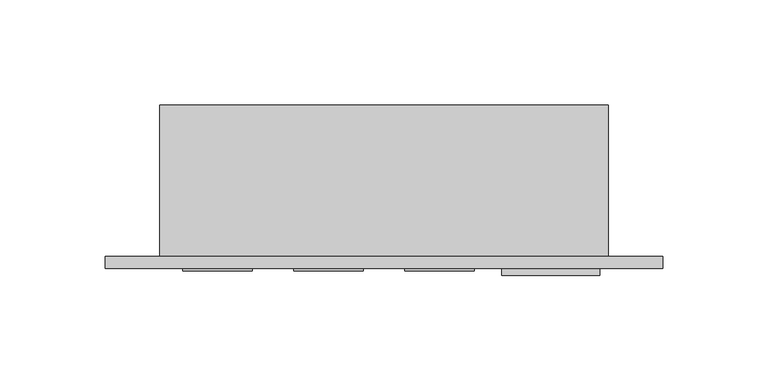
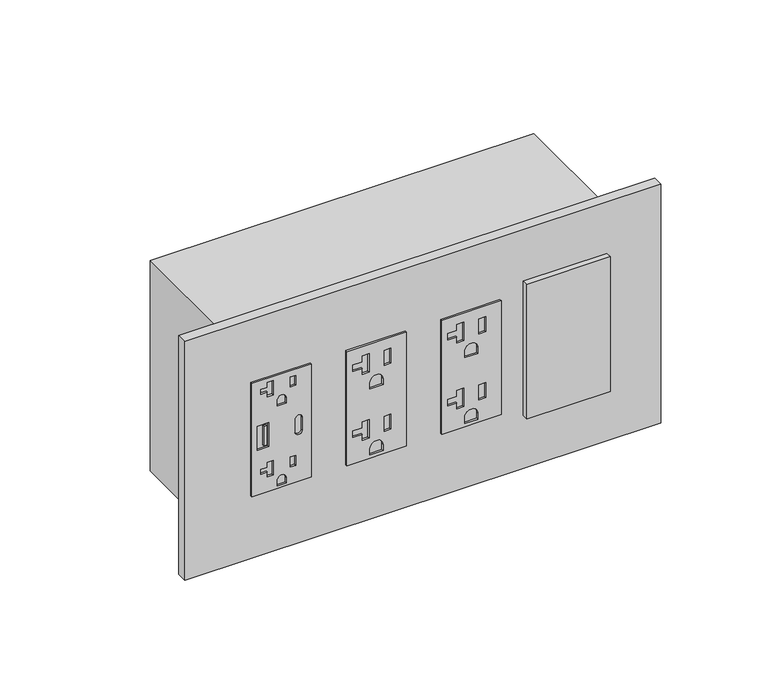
"""IFC4 building model written with IfcOpenShell, lengths in millimetres: proxy geometry, Electrical-Teknion-EPDMQ_Vertical_Power_Data_Quad-R2019 : PD Vertical Module - Quad 20 Amp USB (A+C) & 20 Amp Standard."""

from ifc_helpers import new_model, si_unit, point, frame, frame_2d, origin, place, context, project, spatial, polyline, circle_curve, trimmed, segment, composite_curve, outline, extrude, source, transform, mapped, element, save


def electrical_fixtures_5008ccd6(model_context):
    return source(origin(), model_context, "Body", "SweptSolid", [
        extrude(outline(polyline([(414.274, 11.0998), (347.726, 11.0998), (347.726, 44.0944), (414.274, 44.0944), (414.274, 11.0998)]), holes=[polyline([(388.0485, 14.0236066), (388.0485, 20.5246617), (373.9515, 20.5246617), (373.9515, 14.0236066), (388.0485, 14.0236066)]), composite_curve([segment(trimmed(circle_curve(frame_2d((384.7846, 37.1348)), 1.905), [point((384.7846, 35.2298))], [point((384.7846, 39.0398))], True, "CARTESIAN"), True, "CONTINUOUS"), segment(polyline([(384.7846, 39.0398), (377.2154, 39.0398)]), True, "CONTINUOUS"), segment(trimmed(circle_curve(frame_2d((377.2154, 37.1348)), 1.905), [point((377.2154, 39.0398))], [point((377.2154, 35.2298))], True, "CARTESIAN"), True, "CONTINUOUS"), segment(polyline([(377.2154, 35.2298), (384.7846, 35.2298)]), True, "CONTINUOUS")], self_intersect=False), composite_curve([segment(polyline([(349.25, 30.0609), (349.25, 25.1333), (352.3488, 25.1333)]), True, "CONTINUOUS"), segment(trimmed(circle_curve(frame_2d((352.3488, 27.5971)), 2.4638), [point((352.3488, 25.1333))], [point((352.3488, 30.0609))], True, "CARTESIAN"), True, "CONTINUOUS"), segment(polyline([(352.3488, 30.0609), (349.25, 30.0609)]), True, "CONTINUOUS")], self_intersect=False), polyline([(364.8202, 22.9616), (356.5211661, 22.9616), (356.5211661, 19.6342), (359.2043639, 19.6342), (359.2043639, 16.1036), (361.9419812, 16.1036), (361.9419812, 19.6342), (364.8202, 19.6342), (364.8202, 22.9616)]), composite_curve([segment(polyline([(396.24, 25.1333), (399.3388, 25.1333)]), True, "CONTINUOUS"), segment(trimmed(circle_curve(frame_2d((399.3388, 27.5971)), 2.4638), [point((399.3388, 25.1333))], [point((399.3388, 30.0609))], True, "CARTESIAN"), True, "CONTINUOUS"), segment(polyline([(399.3388, 30.0609), (396.24, 30.0609), (396.24, 25.1333)]), True, "CONTINUOUS")], self_intersect=False), polyline([(404.7574649, 32.4358), (410.5806175, 32.4358), (410.5806175, 35.41014), (404.7574649, 35.41014), (404.7574649, 32.4358)]), polyline([(357.7674649, 32.4358), (363.5906175, 32.4358), (363.5906175, 35.41014), (357.7674649, 35.41014), (357.7674649, 32.4358)]), polyline([(411.8102, 22.9616), (403.5111661, 22.9616), (403.5111661, 19.6342), (406.1943639, 19.6342), (406.1943639, 16.1036), (408.9319812, 16.1036), (408.9319812, 19.6342), (411.8102, 19.6342), (411.8102, 22.9616)])]), frame((0.0, -6.9294746, 0.0), z_axis=(0.0, 1.0, 0.0), x_axis=(0.0, 0.0, 1.0)), (0.0, 0.0, 1.0), 1.0366746),
        extrude(outline(polyline([(19.314835, -6.9294746), (17.7939058, -6.9294746), (17.7939058, -5.8928), (19.314835, -5.8928), (19.314835, -6.9294746)])), frame((0.0, 0.0, 375.2741546), z_axis=(0.0, 0.0, 1.0), x_axis=(1.0, 0.0, 0.0)), (0.0, 0.0, 1.0), 11.4436352),
        extrude(outline(polyline([(414.4772, 149.4282), (414.4772, 116.4336), (347.5228, 116.4336), (347.5228, 149.4282), (414.4772, 149.4282)]), holes=[polyline([(409.0924, 128.778), (398.272, 128.778), (398.272, 124.9426), (401.7518, 124.9426), (401.7518, 119.8372), (405.6126, 119.8372), (405.6126, 124.9426), (409.0924, 124.9426), (409.0924, 128.778)]), polyline([(408.1145, 140.9446), (399.2499, 140.9446), (399.2499, 137.1092), (408.1145, 137.1092), (408.1145, 140.9446)]), composite_curve([segment(polyline([(388.0866, 136.5631), (388.0866, 129.2987), (391.7188, 129.2987)]), True, "CONTINUOUS"), segment(trimmed(circle_curve(frame_2d((391.7188, 132.9309)), 3.6322), [point((391.7188, 129.2987))], [point((391.7188, 136.5631))], True, "CARTESIAN"), True, "CONTINUOUS"), segment(polyline([(391.7188, 136.5631), (388.0866, 136.5631)]), True, "CONTINUOUS")], self_intersect=False), polyline([(370.3574, 128.778), (359.537, 128.778), (359.537, 124.9426), (363.0168, 124.9426), (363.0168, 119.8372), (366.8776, 119.8372), (366.8776, 124.9426), (370.3574, 124.9426), (370.3574, 128.778)]), polyline([(369.3795, 140.9446), (360.5149, 140.9446), (360.5149, 137.1092), (369.3795, 137.1092), (369.3795, 140.9446)]), composite_curve([segment(polyline([(349.3516, 136.5631), (349.3516, 129.2987), (352.9838, 129.2987)]), True, "CONTINUOUS"), segment(trimmed(circle_curve(frame_2d((352.9838, 132.9309)), 3.6322), [point((352.9838, 129.2987))], [point((352.9838, 136.5631))], True, "CARTESIAN"), True, "CONTINUOUS"), segment(polyline([(352.9838, 136.5631), (349.3516, 136.5631)]), True, "CONTINUOUS")], self_intersect=False)]), frame((0.0, -6.9294746, 0.0), z_axis=(0.0, 1.0, 0.0), x_axis=(0.0, 0.0, 1.0)), (0.0, 0.0, 1.0), 1.0366746),
        extrude(outline(polyline([(414.4772, 96.7613), (414.4772, 63.7667), (347.5228, 63.7667), (347.5228, 96.7613), (414.4772, 96.7613)]), holes=[polyline([(409.0924, 76.1111), (398.272, 76.1111), (398.272, 72.2757), (401.7518, 72.2757), (401.7518, 67.1703), (405.6126, 67.1703), (405.6126, 72.2757), (409.0924, 72.2757), (409.0924, 76.1111)]), polyline([(408.1145, 88.2777), (399.2499, 88.2777), (399.2499, 84.4423), (408.1145, 84.4423), (408.1145, 88.2777)]), composite_curve([segment(polyline([(388.0866, 83.8962), (388.0866, 76.6318), (391.7188, 76.6318)]), True, "CONTINUOUS"), segment(trimmed(circle_curve(frame_2d((391.7188, 80.264)), 3.6322), [point((391.7188, 76.6318))], [point((391.7188, 83.8962))], True, "CARTESIAN"), True, "CONTINUOUS"), segment(polyline([(391.7188, 83.8962), (388.0866, 83.8962)]), True, "CONTINUOUS")], self_intersect=False), polyline([(370.3574, 76.1111), (359.537, 76.1111), (359.537, 72.2757), (363.0168, 72.2757), (363.0168, 67.1703), (366.8776, 67.1703), (366.8776, 72.2757), (370.3574, 72.2757), (370.3574, 76.1111)]), polyline([(369.3795, 88.2777), (360.5149, 88.2777), (360.5149, 84.4423), (369.3795, 84.4423), (369.3795, 88.2777)]), composite_curve([segment(polyline([(349.3516, 83.8962), (349.3516, 76.6318), (352.9838, 76.6318)]), True, "CONTINUOUS"), segment(trimmed(circle_curve(frame_2d((352.9838, 80.264)), 3.6322), [point((352.9838, 76.6318))], [point((352.9838, 83.8962))], True, "CARTESIAN"), True, "CONTINUOUS"), segment(polyline([(352.9838, 83.8962), (349.3516, 83.8962)]), True, "CONTINUOUS")], self_intersect=False)]), frame((0.0, -6.9294746, 0.0), z_axis=(0.0, 1.0, 0.0), x_axis=(0.0, 0.0, 1.0)), (0.0, 0.0, 1.0), 1.0366746),
        extrude(outline(polyline([(162.3314, -5.8928), (208.8642, -5.8928), (208.8642, -9.0678), (162.3314, -9.0678), (162.3314, -5.8928)])), frame((0.0, 0.0, 341.7922742), z_axis=(0.0, 0.0, 1.0), x_axis=(1.0, 0.0, 0.0)), (0.0, 0.0, 1.0), 79.0448),
        extrude(outline(polyline([(-25.6794, 0.0), (238.7092, 0.0), (238.7092, -5.8928), (-25.6794, -5.8928), (-25.6794, 0.0)])), frame((0.0, 0.0, 310.8198), z_axis=(0.0, 0.0, 1.0), x_axis=(1.0, 0.0, 0.0)), (0.0, 0.0, 1.0), 140.3604),
        extrude(outline(polyline([(213.0298, 0.0), (0.0, 0.0), (0.0, 71.7296), (213.0298, 71.7296), (213.0298, 0.0)])), frame((0.0, 0.0, 319.2526), z_axis=(0.0, 0.0, 1.0), x_axis=(1.0, 0.0, 0.0)), (0.0, 0.0, 1.0), 123.4948),
    ])


if __name__ == "__main__":
    model = new_model("IFC4")
    model_context = context("Model", 3, world=origin())
    ifc_project = project(units=[si_unit("LENGTHUNIT", "METRE", prefix="MILLI")], contexts=[model_context])
    site = spatial("IfcSite", under=ifc_project)
    building = spatial("IfcBuilding", under=site)
    placement = place(None, origin())
    electrical_fixtures_shape = electrical_fixtures_5008ccd6(model_context)
    element("IfcBuildingElementProxy", 1, Name="Electrical-Teknion-EPDMQ_Vertical_Power_Data_Quad-R2019 : PD Vertical Module - Quad 20 Amp USB (A+C) & 20 Amp Standard", ObjectType="Electrical-Teknion-EPDMQ_Vertical_Power_Data_Quad-R2019 : PD Vertical Module - Quad 20 Amp USB (A+C) & 20 Amp Standard", at=placement, inside=building, context=model_context, shape_type="MappedRepresentation", body=[
        mapped(electrical_fixtures_shape, transform((0.0, 0.0, 0.0), x_axis=(1.0, 0.0, 0.0), y_axis=(0.0, 1.0, 0.0), z_axis=(0.0, 0.0, 1.0))),
    ])
    save(model, "model.ifc")
